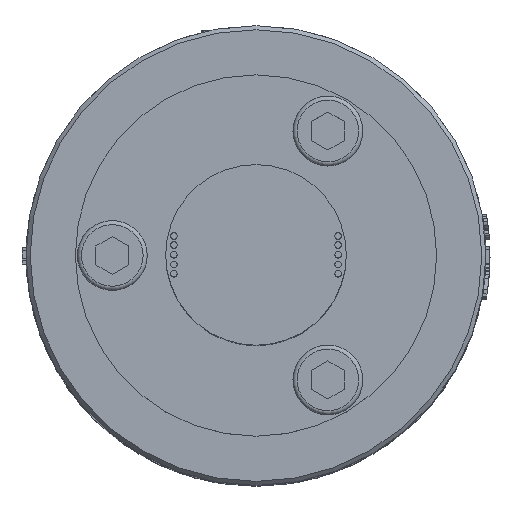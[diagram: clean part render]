
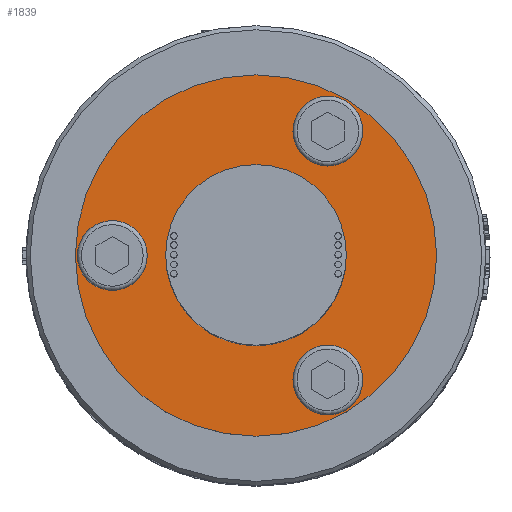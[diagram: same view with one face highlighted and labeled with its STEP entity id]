
A CAD part, top view. The second image highlights one B-rep face of the part: STEP entity #1839.
In plain terms, the highlighted planar face has unit normal (0, 0, 1).
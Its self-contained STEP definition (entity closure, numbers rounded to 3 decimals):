
#389=FACE_BOUND('',#4712,.T.);
#390=FACE_BOUND('',#4713,.T.);
#391=FACE_BOUND('',#4714,.T.);
#392=FACE_BOUND('',#4715,.T.);
#393=FACE_BOUND('',#4716,.T.);
#1298=CIRCLE('',#21957,4.25);
#1300=CIRCLE('',#21968,4.25);
#1303=CIRCLE('',#21981,4.25);
#1327=CIRCLE('',#22038,11.);
#1328=CIRCLE('',#22040,22.);
#1839=ADVANCED_FACE('',(#389,#390,#391,#392,#393),#2807,.T.);
#2807=PLANE('',#22041);
#4712=EDGE_LOOP('',(#10085));
#4713=EDGE_LOOP('',(#10086));
#4714=EDGE_LOOP('',(#10087));
#4715=EDGE_LOOP('',(#10088));
#4716=EDGE_LOOP('',(#10089));
#10085=ORIENTED_EDGE('',*,*,#17145,.F.);
#10086=ORIENTED_EDGE('',*,*,#17159,.F.);
#10087=ORIENTED_EDGE('',*,*,#17180,.F.);
#10088=ORIENTED_EDGE('',*,*,#17223,.T.);
#10089=ORIENTED_EDGE('',*,*,#17222,.F.);
#14705=VERTEX_POINT('',#33754);
#14713=VERTEX_POINT('',#33785);
#14728=VERTEX_POINT('',#33831);
#14764=VERTEX_POINT('',#33942);
#14765=VERTEX_POINT('',#33945);
#17145=EDGE_CURVE('',#14705,#14705,#1298,.T.);
#17159=EDGE_CURVE('',#14713,#14713,#1300,.T.);
#17180=EDGE_CURVE('',#14728,#14728,#1303,.T.);
#17222=EDGE_CURVE('',#14764,#14764,#1327,.T.);
#17223=EDGE_CURVE('',#14765,#14765,#1328,.T.);
#21957=AXIS2_PLACEMENT_3D('',#33753,#23897,#23898);
#21968=AXIS2_PLACEMENT_3D('',#33784,#23931,#23932);
#21981=AXIS2_PLACEMENT_3D('',#33830,#23975,#23976);
#22038=AXIS2_PLACEMENT_3D('',#33941,#24107,#24108);
#22040=AXIS2_PLACEMENT_3D('',#33944,#24111,#24112);
#22041=AXIS2_PLACEMENT_3D('',#33946,#24113,#24114);
#23897=DIRECTION('',(0.,0.,1.));
#23898=DIRECTION('',(-0.866,0.5,0.));
#23931=DIRECTION('',(0.,0.,1.));
#23932=DIRECTION('',(-0.866,0.5,0.));
#23975=DIRECTION('',(0.,0.,1.));
#23976=DIRECTION('',(-0.866,0.5,0.));
#24107=DIRECTION('',(0.,0.,1.));
#24108=DIRECTION('',(1.,0.,0.));
#24111=DIRECTION('',(0.,0.,1.));
#24112=DIRECTION('',(1.,0.,0.));
#24113=DIRECTION('',(0.,0.,1.));
#24114=DIRECTION('',(-1.,0.,0.));
#33753=CARTESIAN_POINT('',(8.75,-15.155,82.5));
#33754=CARTESIAN_POINT('',(5.069,-13.03,82.5));
#33784=CARTESIAN_POINT('',(8.75,15.155,82.5));
#33785=CARTESIAN_POINT('',(5.069,17.28,82.5));
#33830=CARTESIAN_POINT('',(-17.5,0.,82.5));
#33831=CARTESIAN_POINT('',(-21.181,2.125,82.5));
#33941=CARTESIAN_POINT('',(0.,0.,82.5));
#33942=CARTESIAN_POINT('',(11.,0.,82.5));
#33944=CARTESIAN_POINT('',(0.,0.,82.5));
#33945=CARTESIAN_POINT('',(22.,0.,82.5));
#33946=CARTESIAN_POINT('',(0.,0.,82.5));
